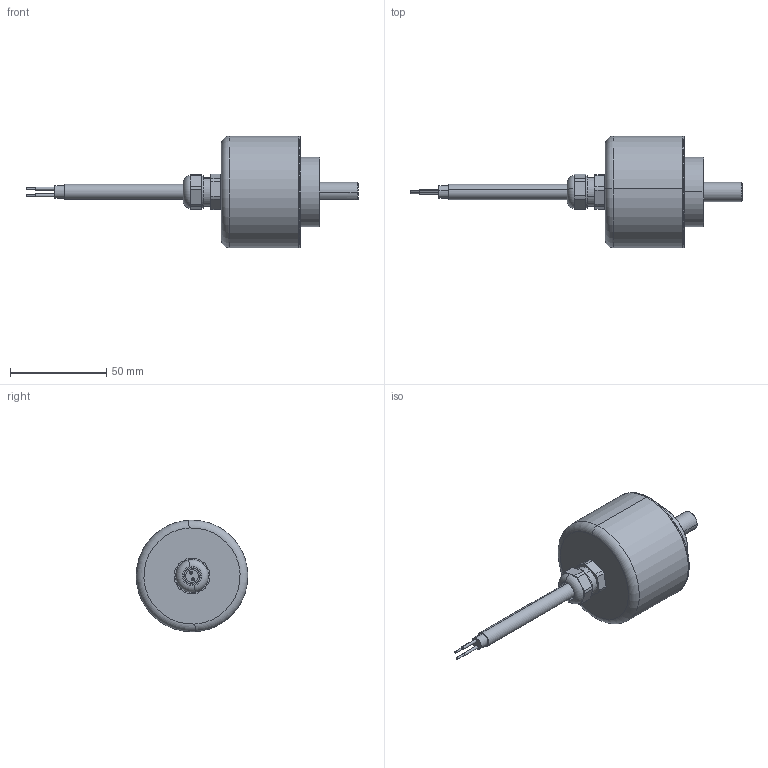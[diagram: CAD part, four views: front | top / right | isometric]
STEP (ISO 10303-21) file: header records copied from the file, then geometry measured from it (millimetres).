
FILE_DESCRIPTION (( 'STEP AP214' ), '1' );
FILE_NAME ('8.5805.12X1.XXXX.STEP', '2016-04-14T06:45:10', ( 'HeirlerN' ), ( 'Microsoft' ), 'SwSTEP 2.0', 'SolidWorks 2013', '' );
FILE_SCHEMA (( 'AUTOMOTIVE_DESIGN' ));
Length unit declared in the file: millimetre
Products named in the file (1): 8.5805.12X1.XXXX
Bounding box: 172.45 x 58 x 58 mm (x, y, z)
Surface area: 21269.4 mm2 (no closed solid volume)
Topology: 0 solids, 9 shells, 112 faces, 271 edges, 176 vertices
Faces by surface type: cylinder 46, plane 37, cone 15, bspline 8, torus 6
Entity records: 4963 total; most frequent: CARTESIAN_POINT 1036, DIRECTION 624, ORIENTED_EDGE 480, EDGE_CURVE 271, AXIS2_PLACEMENT_3D 258, VERTEX_POINT 176, CIRCLE 153, EDGE_LOOP 130
